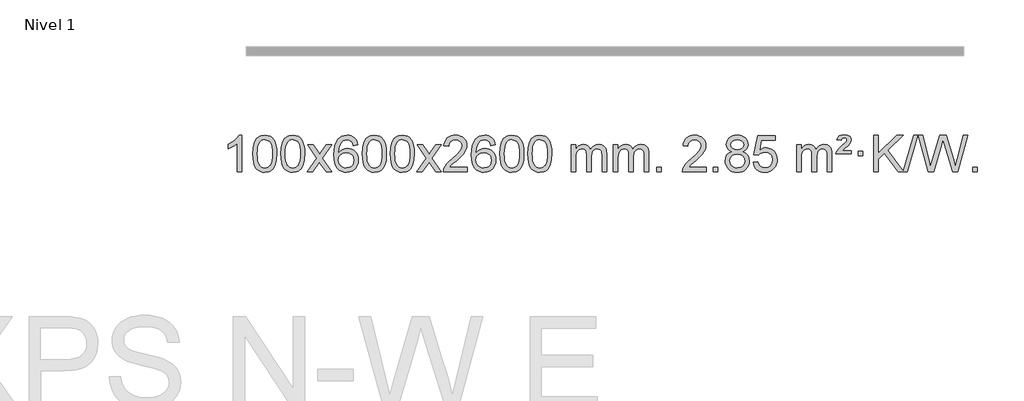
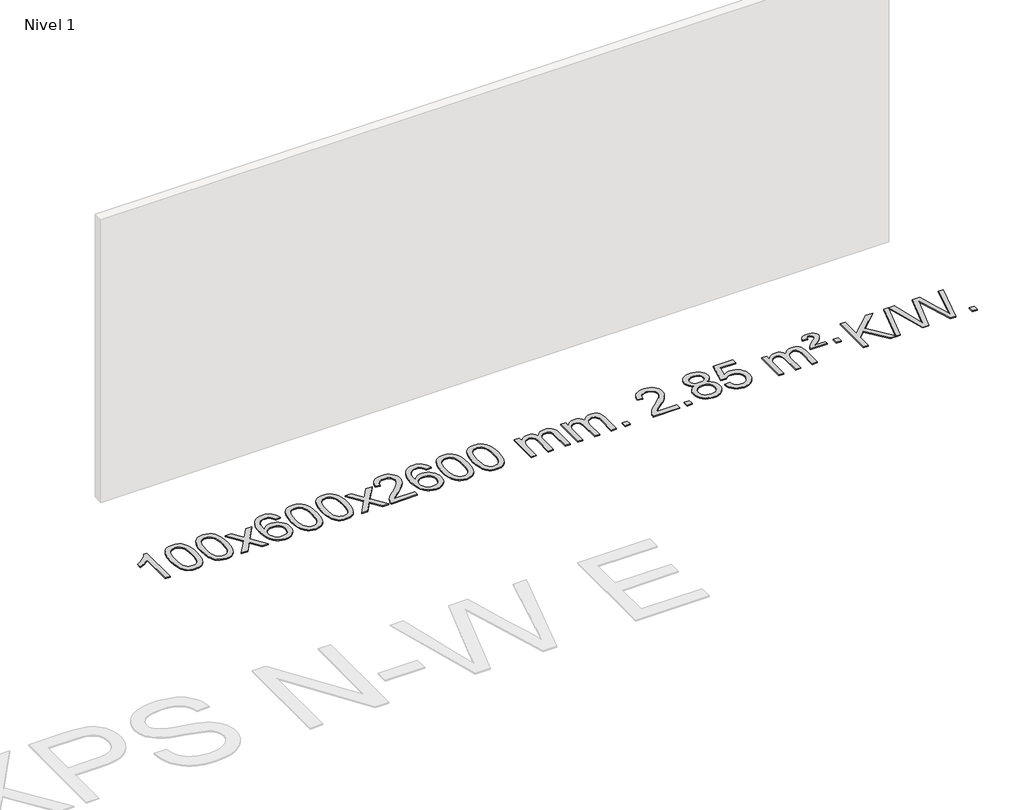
# One storey, part 4 of 9: 1 proxy.
"""IFC4 building model written with IfcOpenShell, lengths in millimetres."""

from ifc_helpers import new_model, si_unit, origin, origin_with_axes, place, context, project, spatial, polyline, outline, extrude, element, save

model = new_model("IFC4")

# Units and contexts
model_context = context("Model", 3, world=origin())
ifc_project = project(units=[si_unit("LENGTHUNIT", "METRE", prefix="MILLI")], contexts=[model_context])

# Site, building, storey
site = spatial("IfcSite", under=ifc_project)
building = spatial("IfcBuilding", under=site)
storey = spatial("IfcBuildingStorey", under=building, Name="Nivel 1", Elevation=0.0)

# Proxy
placement = place(None, origin())
element("IfcBuildingElementProxy", 1, Name="Texto de modelo 1", ObjectType="Texto de modelo 1", at=placement, inside=storey, context=model_context, shape_type="SweptSolid", body=[
    extrude(outline(polyline([(5124.5384212, -9389.579453), (5074.3102662, -9389.579453), (5074.3102662, -9076.4382987), (5053.3409924, -9093.3976587), (5026.7308615, -9110.3324932), (4973.853956, -9135.6918254), (4973.853956, -9088.2105225), (5013.3031686, -9066.7507395), (5047.479406, -9041.219729), (5074.4206308, -9014.0700378), (5092.1648057, -8987.7542124), (5124.5384212, -8987.7542124), (5124.5384212, -9389.579453)])), origin_with_axes(), (0.0, 0.0, 1.0), 10.0),
    extrude(outline(polyline([(5243.8302895, -9191.9041943), (5247.5213722, -9127.5861588), (5258.5946203, -9076.2911459), (5276.9396691, -9037.2343407), (5288.7977321, -9022.0009605), (5302.4461541, -9009.6309284), (5317.9309204, -9000.0598651), (5335.2980163, -8993.2233914), (5375.6791966, -8987.7542124), (5406.6303351, -8990.991574), (5434.3441121, -9000.7036586), (5457.5206778, -9016.5103217), (5474.8601825, -9038.0314184), (5487.9567815, -9065.0830078), (5498.4046302, -9097.4811488), (5505.2472353, -9138.6226186), (5507.5281037, -9191.9041943), (5503.8738092, -9255.8543477), (5492.9109257, -9307.0267333), (5474.6762415, -9346.1203266), (5462.8457697, -9361.3996922), (5449.2065447, -9373.8341036), (5433.7033843, -9383.4695462), (5416.2811061, -9390.3520052), (5375.6791966, -9395.8579724), (5348.0144706, -9393.4667394), (5323.4890042, -9386.2930405), (5302.1027976, -9374.3368757), (5283.8558506, -9357.5982449), (5266.3446676, -9327.3399508), (5253.8366798, -9289.6381776), (5246.3318871, -9244.4929255), (5243.8302895, -9191.9041943)]), holes=[polyline([(5294.0584446, -9191.8060924), (5295.5299726, -9235.4706195), (5299.9445565, -9270.8148822), (5307.3021964, -9297.8388804), (5317.6028923, -9316.5426142), (5330.0618292, -9329.2682656), (5343.8941922, -9338.3580165), (5359.0999814, -9343.8118671), (5375.6791966, -9345.6298173), (5392.2584119, -9343.8057357), (5407.464201, -9338.3334911), (5421.296564, -9329.2130833), (5433.7555009, -9316.4445124), (5444.0561968, -9297.7101217), (5451.4138367, -9270.6922549), (5455.8284206, -9235.3909118), (5457.2999486, -9191.8060924), (5455.8774716, -9149.2973278), (5451.6100404, -9114.5753989), (5444.4976552, -9087.6403055), (5434.5403158, -9068.4920476), (5422.2898454, -9055.1440625), (5408.2980668, -9045.6097875), (5392.5649802, -9039.8892225), (5375.0905854, -9037.9823675), (5358.5972093, -9039.6623619), (5343.6489376, -9044.7023452), (5330.2457702, -9053.1023175), (5318.3877072, -9064.8622786), (5307.7436548, -9085.708925), (5300.1407603, -9113.8151094), (5295.5790235, -9149.1808319), (5294.0584446, -9191.8060924)])]), origin_with_axes(), (0.0, 0.0, 1.0), 10.0),
    extrude(outline(polyline([(5551.4777394, -9191.9041943), (5555.1688221, -9127.5861588), (5566.2420701, -9076.2911459), (5584.5871189, -9037.2343407), (5596.4451819, -9022.0009605), (5610.0936039, -9009.6309284), (5625.5783702, -9000.0598651), (5642.9454661, -8993.2233914), (5683.3266464, -8987.7542124), (5714.277785, -8990.991574), (5741.9915619, -9000.7036586), (5765.1681276, -9016.5103217), (5782.5076323, -9038.0314184), (5795.6042314, -9065.0830078), (5806.05208, -9097.4811488), (5812.8946851, -9138.6226186), (5815.1755535, -9191.9041943), (5811.521259, -9255.8543477), (5800.5583756, -9307.0267333), (5782.3236913, -9346.1203266), (5770.4932195, -9361.3996922), (5756.8539945, -9373.8341036), (5741.3508341, -9383.4695462), (5723.928556, -9390.3520052), (5683.3266464, -9395.8579724), (5655.6619204, -9393.4667394), (5631.1364541, -9386.2930405), (5609.7502474, -9374.3368757), (5591.5033004, -9357.5982449), (5573.9921175, -9327.3399508), (5561.4841296, -9289.6381776), (5553.9793369, -9244.4929255), (5551.4777394, -9191.9041943)]), holes=[polyline([(5601.7058944, -9191.8060924), (5603.1774224, -9235.4706195), (5607.5920064, -9270.8148822), (5614.9496463, -9297.8388804), (5625.2503421, -9316.5426142), (5637.709279, -9329.2682656), (5651.5416421, -9338.3580165), (5666.7474312, -9343.8118671), (5683.3266464, -9345.6298173), (5699.9058617, -9343.8057357), (5715.1116508, -9338.3334911), (5728.9440138, -9329.2130833), (5741.4029507, -9316.4445124), (5751.7036466, -9297.7101217), (5759.0612865, -9270.6922549), (5763.4758705, -9235.3909118), (5764.9473984, -9191.8060924), (5763.5249214, -9149.2973278), (5759.2574902, -9114.5753989), (5752.145105, -9087.6403055), (5742.1877657, -9068.4920476), (5729.9372952, -9055.1440625), (5715.9455167, -9045.6097875), (5700.21243, -9039.8892225), (5682.7380352, -9037.9823675), (5666.2446591, -9039.6623619), (5651.2963874, -9044.7023452), (5637.89322, -9053.1023175), (5626.0351571, -9064.8622786), (5615.3911047, -9085.708925), (5607.7882101, -9113.8151094), (5603.2264734, -9149.1808319), (5601.7058944, -9191.8060924)])]), origin_with_axes(), (0.0, 0.0, 1.0), 10.0),
    extrude(outline(polyline([(5840.2896311, -9389.579453), (5947.6130718, -9241.2494325), (5846.5681504, -9094.4890419), (5906.9988995, -9094.4890419), (5955.7555266, -9165.122385), (5978.5151594, -9198.4770192), (5998.2336343, -9171.2047007), (6053.7592901, -9094.4890419), (6114.1900392, -9094.4890419), (6008.0438209, -9241.2494325), (6110.2659646, -9389.579453), (6049.8352155, -9389.579453), (5988.3253459, -9300.4048574), (5977.0436314, -9284.1199477), (5900.7203801, -9389.579453), (5840.2896311, -9389.579453)])), origin_with_axes(), (0.0, 0.0, 1.0), 10.0),
    extrude(outline(polyline([(6399.0778563, -9094.4890419), (6348.8497012, -9100.7675613), (6340.7562973, -9075.874213), (6329.8179393, -9058.8780648), (6307.0337811, -9043.2062918), (6279.4916824, -9037.9823675), (6256.1434384, -9041.0235253), (6234.1686206, -9050.1469988), (6215.2962742, -9069.3627017), (6199.8820186, -9095.8134171), (6189.4709581, -9133.227016), (6185.6081972, -9185.3313693), (6205.7558678, -9161.8237098), (6229.9011894, -9145.2567573), (6256.6952614, -9135.434308), (6284.7891831, -9132.1601582), (6308.922242, -9134.398107), (6331.1913654, -9141.1119534), (6351.5965534, -9152.3016975), (6370.137806, -9167.9673391), (6385.5459302, -9187.1769106), (6396.5517332, -9208.9984443), (6403.155215, -9233.4319401), (6405.3563756, -9260.4773982), (6401.2115718, -9296.4439945), (6388.7771604, -9329.786366), (6369.0832109, -9358.0642287), (6343.159793, -9378.8372987), (6312.184129, -9391.602804), (6277.3334413, -9395.8579724), (6247.3909126, -9393.0375437), (6220.3485203, -9384.5762579), (6196.2062643, -9370.4741147), (6174.9641448, -9350.7311143), (6157.6460999, -9324.5133908), (6145.2760678, -9290.9870783), (6137.8540485, -9250.1521768), (6135.3800421, -9202.0086864), (6138.1268943, -9148.0342663), (6146.367451, -9101.9693092), (6160.1017122, -9063.8138149), (6179.3296778, -9033.5677835), (6200.1701928, -9013.5243462), (6224.3339085, -8999.2076052), (6251.820825, -8990.6175606), (6282.6309421, -8987.7542124), (6305.7645882, -8989.5261773), (6326.7032051, -8994.8420722), (6345.4467927, -9003.7018969), (6361.9953511, -9016.1056515), (6375.9012906, -9031.6364031), (6386.7170212, -9049.8772186), (6394.4425431, -9070.8280983), (6399.0778563, -9094.4890419)]), holes=[polyline([(6185.6081972, -9259.6925832), (6188.514465, -9281.9494439), (6197.2332682, -9303.2007605), (6210.7713257, -9321.472233), (6228.1353558, -9334.7895612), (6249.0923668, -9342.9197533), (6273.4093667, -9345.6298173), (6306.5555345, -9340.0134855), (6320.4706709, -9332.9930708), (6332.6138425, -9323.1644901), (6342.4638829, -9310.9262824), (6349.499626, -9296.6769865), (6355.1282206, -9262.1451299), (6349.5732024, -9228.9989621), (6342.6294298, -9215.3781312), (6332.9081481, -9203.725469), (6320.7281883, -9194.3904634), (6306.4083817, -9187.7226022), (6271.3492275, -9182.3883133), (6238.2521107, -9187.7226022), (6210.5751219, -9203.725469), (6199.6520924, -9215.2248471), (6191.8499284, -9228.3858254), (6187.16863, -9243.2084042), (6185.6081972, -9259.6925832)])]), origin_with_axes(), (0.0, 0.0, 1.0), 10.0),
    extrude(outline(polyline([(6449.3060113, -9191.9041943), (6452.997094, -9127.5861588), (6464.0703421, -9076.2911459), (6482.4153909, -9037.2343407), (6494.2734539, -9022.0009605), (6507.9218759, -9009.6309284), (6523.4066422, -9000.0598651), (6540.7737381, -8993.2233914), (6581.1549184, -8987.7542124), (6612.1060569, -8990.991574), (6639.8198339, -9000.7036586), (6662.9963996, -9016.5103217), (6680.3359043, -9038.0314184), (6693.4325033, -9065.0830078), (6703.880352, -9097.4811488), (6710.7229571, -9138.6226186), (6713.0038255, -9191.9041943), (6709.349531, -9255.8543477), (6698.3866475, -9307.0267333), (6680.1519633, -9346.1203266), (6668.3214915, -9361.3996922), (6654.6822665, -9373.8341036), (6639.1791061, -9383.4695462), (6621.7568279, -9390.3520052), (6581.1549184, -9395.8579724), (6553.4901924, -9393.4667394), (6528.964726, -9386.2930405), (6507.5785194, -9374.3368757), (6489.3315724, -9357.5982449), (6471.8203894, -9327.3399508), (6459.3124016, -9289.6381776), (6451.8076089, -9244.4929255), (6449.3060113, -9191.9041943)]), holes=[polyline([(6499.5341664, -9191.8060924), (6501.0056944, -9235.4706195), (6505.4202783, -9270.8148822), (6512.7779182, -9297.8388804), (6523.0786141, -9316.5426142), (6535.537551, -9329.2682656), (6549.369914, -9338.3580165), (6564.5757032, -9343.8118671), (6581.1549184, -9345.6298173), (6597.7341337, -9343.8057357), (6612.9399228, -9338.3334911), (6626.7722858, -9329.2130833), (6639.2312227, -9316.4445124), (6649.5319186, -9297.7101217), (6656.8895585, -9270.6922549), (6661.3041424, -9235.3909118), (6662.7756704, -9191.8060924), (6661.3531934, -9149.2973278), (6657.0857622, -9114.5753989), (6649.973377, -9087.6403055), (6640.0160376, -9068.4920476), (6627.7655672, -9055.1440625), (6613.7737886, -9045.6097875), (6598.040702, -9039.8892225), (6580.5663072, -9037.9823675), (6564.0729311, -9039.6623619), (6549.1246594, -9044.7023452), (6535.721492, -9053.1023175), (6523.863429, -9064.8622786), (6513.2193766, -9085.708925), (6505.6164821, -9113.8151094), (6501.0547453, -9149.1808319), (6499.5341664, -9191.8060924)])]), origin_with_axes(), (0.0, 0.0, 1.0), 10.0),
    extrude(outline(polyline([(6756.9534612, -9191.9041943), (6760.6445439, -9127.5861588), (6771.7177919, -9076.2911459), (6790.0628407, -9037.2343407), (6801.9209037, -9022.0009605), (6815.5693257, -9009.6309284), (6831.054092, -9000.0598651), (6848.4211879, -8993.2233914), (6888.8023682, -8987.7542124), (6919.7535068, -8990.991574), (6947.4672837, -9000.7036586), (6970.6438494, -9016.5103217), (6987.9833541, -9038.0314184), (7001.0799532, -9065.0830078), (7011.5278018, -9097.4811488), (7018.3704069, -9138.6226186), (7020.6512753, -9191.9041943), (7016.9969808, -9255.8543477), (7006.0340974, -9307.0267333), (6987.7994131, -9346.1203266), (6975.9689413, -9361.3996922), (6962.3297163, -9373.8341036), (6946.8265559, -9383.4695462), (6929.4042778, -9390.3520052), (6888.8023682, -9395.8579724), (6861.1376422, -9393.4667394), (6836.6121759, -9386.2930405), (6815.2259692, -9374.3368757), (6796.9790222, -9357.5982449), (6779.4678393, -9327.3399508), (6766.9598514, -9289.6381776), (6759.4550587, -9244.4929255), (6756.9534612, -9191.9041943)]), holes=[polyline([(6807.1816162, -9191.8060924), (6808.6531442, -9235.4706195), (6813.0677282, -9270.8148822), (6820.4253681, -9297.8388804), (6830.7260639, -9316.5426142), (6843.1850008, -9329.2682656), (6857.0173639, -9338.3580165), (6872.223153, -9343.8118671), (6888.8023682, -9345.6298173), (6905.3815835, -9343.8057357), (6920.5873726, -9338.3334911), (6934.4197356, -9329.2130833), (6946.8786725, -9316.4445124), (6957.1793684, -9297.7101217), (6964.5370083, -9270.6922549), (6968.9515923, -9235.3909118), (6970.4231202, -9191.8060924), (6969.0006432, -9149.2973278), (6964.733212, -9114.5753989), (6957.6208268, -9087.6403055), (6947.6634875, -9068.4920476), (6935.413017, -9055.1440625), (6921.4212385, -9045.6097875), (6905.6881518, -9039.8892225), (6888.213757, -9037.9823675), (6871.7203809, -9039.6623619), (6856.7721092, -9044.7023452), (6843.3689418, -9053.1023175), (6831.5108789, -9064.8622786), (6820.8668265, -9085.708925), (6813.2639319, -9113.8151094), (6808.7021952, -9149.1808319), (6807.1816162, -9191.8060924)])]), origin_with_axes(), (0.0, 0.0, 1.0), 10.0),
    extrude(outline(polyline([(7045.7653528, -9389.579453), (7153.0887936, -9241.2494325), (7052.0438722, -9094.4890419), (7112.4746213, -9094.4890419), (7161.2312484, -9165.122385), (7183.9908812, -9198.4770192), (7203.7093561, -9171.2047007), (7259.2350119, -9094.4890419), (7319.665761, -9094.4890419), (7213.5195426, -9241.2494325), (7315.7416864, -9389.579453), (7255.3109373, -9389.579453), (7193.8010677, -9300.4048574), (7182.5193532, -9284.1199477), (7106.1961019, -9389.579453), (7045.7653528, -9389.579453)])), origin_with_axes(), (0.0, 0.0, 1.0), 10.0),
    extrude(outline(polyline([(7604.5535781, -9339.3512979), (7604.5535781, -9389.579453), (7340.8557639, -9389.579453), (7341.9594099, -9371.8965918), (7346.2513665, -9354.9494945), (7358.636727, -9327.8856424), (7376.7610466, -9301.6311307), (7402.9787702, -9274.1503456), (7439.6443423, -9243.4076736), (7493.845623, -9195.2641831), (7526.3663913, -9159.7267824), (7542.6267755, -9130.884834), (7548.0469036, -9102.8277005), (7542.9333439, -9077.6768347), (7527.5926647, -9056.7688747), (7504.0114288, -9042.6789943), (7474.176199, -9037.9823675), (7442.8449157, -9042.5686297), (7418.5033904, -9056.3274163), (7402.7948292, -9078.1796068), (7397.3624384, -9107.0460807), (7347.1342833, -9100.7675613), (7351.4538311, -9074.838012), (7359.3111773, -9052.1826125), (7370.7063221, -9032.8013627), (7385.6392655, -9016.6942627), (7403.7666508, -9004.0329907), (7424.7451215, -8994.989225), (7448.5746778, -8989.5629655), (7475.2553195, -8987.7542124), (7502.1750845, -8989.7653006), (7526.1333994, -8995.7985654), (7547.1302643, -9005.8540066), (7565.1656791, -9019.9316242), (7579.6510327, -9036.9890861), (7589.9977138, -9055.9840598), (7596.2057224, -9076.9165453), (7598.2750587, -9099.7865427), (7596.0432412, -9123.8092369), (7589.3477889, -9147.4149983), (7577.4652005, -9171.4254299), (7559.6719746, -9196.6621347), (7531.3082728, -9226.7916701), (7487.7142564, -9265.4805933), (7429.9322577, -9313.795762), (7407.2707268, -9339.3512979), (7604.5535781, -9339.3512979)])), origin_with_axes(), (0.0, 0.0, 1.0), 10.0),
    extrude(outline(polyline([(7912.2010279, -9094.4890419), (7861.9728728, -9100.7675613), (7853.8794689, -9075.874213), (7842.9411109, -9058.8780648), (7820.1569527, -9043.2062918), (7792.614854, -9037.9823675), (7769.26661, -9041.0235253), (7747.2917922, -9050.1469988), (7728.4194458, -9069.3627017), (7713.0051902, -9095.8134171), (7702.5941298, -9133.227016), (7698.7313688, -9185.3313693), (7718.8790394, -9161.8237098), (7743.024361, -9145.2567573), (7769.818433, -9135.434308), (7797.9123547, -9132.1601582), (7822.0454136, -9134.398107), (7844.314537, -9141.1119534), (7864.719725, -9152.3016975), (7883.2609776, -9167.9673391), (7898.6691018, -9187.1769106), (7909.6749049, -9208.9984443), (7916.2783867, -9233.4319401), (7918.4795473, -9260.4773982), (7914.3347435, -9296.4439945), (7901.900332, -9329.786366), (7882.2063825, -9358.0642287), (7856.2829646, -9378.8372987), (7825.3073006, -9391.602804), (7790.4566129, -9395.8579724), (7760.5140842, -9393.0375437), (7733.4716919, -9384.5762579), (7709.329436, -9370.4741147), (7688.0873164, -9350.7311143), (7670.7692715, -9324.5133908), (7658.3992394, -9290.9870783), (7650.9772202, -9250.1521768), (7648.5032137, -9202.0086864), (7651.250066, -9148.0342663), (7659.4906227, -9101.9693092), (7673.2248838, -9063.8138149), (7692.4528494, -9033.5677835), (7713.2933645, -9013.5243462), (7737.4570802, -8999.2076052), (7764.9439966, -8990.6175606), (7795.7541137, -8987.7542124), (7818.8877598, -8989.5261773), (7839.8263767, -8994.8420722), (7858.5699644, -9003.7018969), (7875.1185228, -9016.1056515), (7889.0244622, -9031.6364031), (7899.8401928, -9049.8772186), (7907.5657147, -9070.8280983), (7912.2010279, -9094.4890419)]), holes=[polyline([(7698.7313688, -9259.6925832), (7701.6376366, -9281.9494439), (7710.3564399, -9303.2007605), (7723.8944973, -9321.472233), (7741.2585275, -9334.7895612), (7762.2155385, -9342.9197533), (7786.5325383, -9345.6298173), (7819.6787061, -9340.0134855), (7833.5938426, -9332.9930708), (7845.7370141, -9323.1644901), (7855.5870545, -9310.9262824), (7862.6227977, -9296.6769865), (7868.2513922, -9262.1451299), (7862.6963741, -9228.9989621), (7855.7526014, -9215.3781312), (7846.0313197, -9203.725469), (7833.85136, -9194.3904634), (7819.5315533, -9187.7226022), (7784.4723992, -9182.3883133), (7751.3752823, -9187.7226022), (7723.6982936, -9203.725469), (7712.775264, -9215.2248471), (7704.9731, -9228.3858254), (7700.2918016, -9243.2084042), (7698.7313688, -9259.6925832)])]), origin_with_axes(), (0.0, 0.0, 1.0), 10.0),
    extrude(outline(polyline([(7962.429183, -9191.9041943), (7966.1202656, -9127.5861588), (7977.1935137, -9076.2911459), (7995.5385625, -9037.2343407), (8007.3966255, -9022.0009605), (8021.0450475, -9009.6309284), (8036.5298138, -9000.0598651), (8053.8969097, -8993.2233914), (8094.27809, -8987.7542124), (8125.2292286, -8990.991574), (8152.9430055, -9000.7036586), (8176.1195712, -9016.5103217), (8193.4590759, -9038.0314184), (8206.555675, -9065.0830078), (8217.0035236, -9097.4811488), (8223.8461287, -9138.6226186), (8226.1269971, -9191.9041943), (8222.4727026, -9255.8543477), (8211.5098192, -9307.0267333), (8193.2751349, -9346.1203266), (8181.4446631, -9361.3996922), (8167.8054381, -9373.8341036), (8152.3022777, -9383.4695462), (8134.8799996, -9390.3520052), (8094.27809, -9395.8579724), (8066.613364, -9393.4667394), (8042.0878976, -9386.2930405), (8020.701691, -9374.3368757), (8002.454744, -9357.5982449), (7984.9435611, -9327.3399508), (7972.4355732, -9289.6381776), (7964.9307805, -9244.4929255), (7962.429183, -9191.9041943)]), holes=[polyline([(8012.657338, -9191.8060924), (8014.128866, -9235.4706195), (8018.54345, -9270.8148822), (8025.9010899, -9297.8388804), (8036.2017857, -9316.5426142), (8048.6607226, -9329.2682656), (8062.4930856, -9338.3580165), (8077.6988748, -9343.8118671), (8094.27809, -9345.6298173), (8110.8573053, -9343.8057357), (8126.0630944, -9338.3334911), (8139.8954574, -9329.2130833), (8152.3543943, -9316.4445124), (8162.6550902, -9297.7101217), (8170.0127301, -9270.6922549), (8174.427314, -9235.3909118), (8175.898842, -9191.8060924), (8174.476365, -9149.2973278), (8170.2089338, -9114.5753989), (8163.0965486, -9087.6403055), (8153.1392093, -9068.4920476), (8140.8887388, -9055.1440625), (8126.8969603, -9045.6097875), (8111.1638736, -9039.8892225), (8093.6894788, -9037.9823675), (8077.1961027, -9039.6623619), (8062.247831, -9044.7023452), (8048.8446636, -9053.1023175), (8036.9866007, -9064.8622786), (8026.3425483, -9085.708925), (8018.7396537, -9113.8151094), (8014.1779169, -9149.1808319), (8012.657338, -9191.8060924)])]), origin_with_axes(), (0.0, 0.0, 1.0), 10.0),
    extrude(outline(polyline([(8270.0766328, -9191.9041943), (8273.7677155, -9127.5861588), (8284.8409635, -9076.2911459), (8303.1860124, -9037.2343407), (8315.0440753, -9022.0009605), (8328.6924974, -9009.6309284), (8344.1772637, -9000.0598651), (8361.5443595, -8993.2233914), (8401.9255399, -8987.7542124), (8432.8766784, -8990.991574), (8460.5904554, -9000.7036586), (8483.7670211, -9016.5103217), (8501.1065258, -9038.0314184), (8514.2031248, -9065.0830078), (8524.6509735, -9097.4811488), (8531.4935786, -9138.6226186), (8533.7744469, -9191.9041943), (8530.1201525, -9255.8543477), (8519.157269, -9307.0267333), (8500.9225848, -9346.1203266), (8489.0921129, -9361.3996922), (8475.452888, -9373.8341036), (8459.9497276, -9383.4695462), (8442.5274494, -9390.3520052), (8401.9255399, -9395.8579724), (8374.2608138, -9393.4667394), (8349.7353475, -9386.2930405), (8328.3491408, -9374.3368757), (8310.1021939, -9357.5982449), (8292.5910109, -9327.3399508), (8280.0830231, -9289.6381776), (8272.5782304, -9244.4929255), (8270.0766328, -9191.9041943)]), holes=[polyline([(8320.3047879, -9191.8060924), (8321.7763158, -9235.4706195), (8326.1908998, -9270.8148822), (8333.5485397, -9297.8388804), (8343.8492356, -9316.5426142), (8356.3081725, -9329.2682656), (8370.1405355, -9338.3580165), (8385.3463246, -9343.8118671), (8401.9255399, -9345.6298173), (8418.5047551, -9343.8057357), (8433.7105442, -9338.3334911), (8447.5429073, -9329.2130833), (8460.0018442, -9316.4445124), (8470.30254, -9297.7101217), (8477.6601799, -9270.6922549), (8482.0747639, -9235.3909118), (8483.5462919, -9191.8060924), (8482.1238148, -9149.2973278), (8477.8563837, -9114.5753989), (8470.7439984, -9087.6403055), (8460.7866591, -9068.4920476), (8448.5361887, -9055.1440625), (8434.5444101, -9045.6097875), (8418.8113234, -9039.8892225), (8401.3369287, -9037.9823675), (8384.8435526, -9039.6623619), (8369.8952808, -9044.7023452), (8356.4921135, -9053.1023175), (8344.6340505, -9064.8622786), (8333.9899981, -9085.708925), (8326.3871035, -9113.8151094), (8321.8253668, -9149.1808319), (8320.3047879, -9191.8060924)])]), origin_with_axes(), (0.0, 0.0, 1.0), 10.0),
    extrude(outline(polyline([(8747.244106, -9389.579453), (8747.244106, -9094.4890419), (8797.4722611, -9094.4890419), (8797.4722611, -9143.0494653), (8812.5799483, -9120.7435537), (8832.0041177, -9103.2691589), (8855.0825815, -9091.9751816), (8881.1531522, -9088.2105225), (8909.0876584, -9092.048758), (8931.4794092, -9103.5634645), (8948.2057772, -9121.9943524), (8959.1441352, -9146.5811324), (8977.4523959, -9121.0439906), (8998.3358304, -9102.803175), (9021.794439, -9091.8586857), (9047.8282215, -9088.2105225), (9067.9360383, -9089.7280358), (9085.585177, -9094.2805755), (9100.7756377, -9101.8681416), (9113.5074204, -9112.4907342), (9123.5720587, -9126.2709806), (9130.761086, -9143.3315082), (9135.0745024, -9163.6723168), (9136.5123078, -9187.2934066), (9136.5123078, -9389.579453), (9086.2841528, -9389.579453), (9086.2841528, -9208.875817), (9085.1191931, -9183.8230531), (9081.6243142, -9166.9372695), (9075.0760146, -9155.3735121), (9064.7507933, -9146.2868268), (9051.4702533, -9140.4007149), (9036.0559977, -9138.4386776), (9008.8449928, -9143.4663982), (8986.6617085, -9158.54956), (8978.0563355, -9170.1194488), (8971.9096405, -9184.7182326), (8966.9922845, -9223.0024856), (8966.9922845, -9389.579453), (8916.7641294, -9389.579453), (8916.7641294, -9203.2840106), (8913.8578616, -9174.8835206), (8905.1390583, -9154.6254854), (8889.7983791, -9142.4853796), (8867.0264836, -9138.4386776), (8847.6758907, -9141.1364789), (8829.8458767, -9149.2298828), (8815.1305968, -9162.5226856), (8805.1242066, -9180.8186835), (8799.3852475, -9206.2025411), (8797.4722611, -9240.7589232), (8797.4722611, -9389.579453), (8747.244106, -9389.579453)])), origin_with_axes(), (0.0, 0.0, 1.0), 10.0),
    extrude(outline(polyline([(9211.8545404, -9389.579453), (9211.8545404, -9094.4890419), (9262.0826955, -9094.4890419), (9262.0826955, -9143.0494653), (9277.1903828, -9120.7435537), (9296.6145521, -9103.2691589), (9319.693016, -9091.9751816), (9345.7635867, -9088.2105225), (9373.6980929, -9092.048758), (9396.0898436, -9103.5634645), (9412.8162117, -9121.9943524), (9423.7545697, -9146.5811324), (9442.0628303, -9121.0439906), (9462.9462649, -9102.803175), (9486.4048734, -9091.8586857), (9512.438656, -9088.2105225), (9532.5464727, -9089.7280358), (9550.1956114, -9094.2805755), (9565.3860721, -9101.8681416), (9578.1178548, -9112.4907342), (9588.1824931, -9126.2709806), (9595.3715204, -9143.3315082), (9599.6849368, -9163.6723168), (9601.1227423, -9187.2934066), (9601.1227423, -9389.579453), (9550.8945872, -9389.579453), (9550.8945872, -9208.875817), (9549.7296276, -9183.8230531), (9546.2347486, -9166.9372695), (9539.6864491, -9155.3735121), (9529.3612278, -9146.2868268), (9516.0806877, -9140.4007149), (9500.6664321, -9138.4386776), (9473.4554272, -9143.4663982), (9451.2721429, -9158.54956), (9442.6667699, -9170.1194488), (9436.5200749, -9184.7182326), (9431.6027189, -9223.0024856), (9431.6027189, -9389.579453), (9381.3745638, -9389.579453), (9381.3745638, -9203.2840106), (9378.4682961, -9174.8835206), (9369.7494928, -9154.6254854), (9354.4088136, -9142.4853796), (9331.6369181, -9138.4386776), (9312.2863251, -9141.1364789), (9294.4563111, -9149.2298828), (9279.7410313, -9162.5226856), (9269.734641, -9180.8186835), (9263.9956819, -9206.2025411), (9262.0826955, -9240.7589232), (9262.0826955, -9389.579453), (9211.8545404, -9389.579453)])), origin_with_axes(), (0.0, 0.0, 1.0), 10.0),
    extrude(outline(polyline([(9689.0220137, -9389.579453), (9689.0220137, -9339.3512979), (9739.2501687, -9339.3512979), (9739.2501687, -9389.579453), (9689.0220137, -9389.579453)])), origin_with_axes(), (0.0, 0.0, 1.0), 10.0),
    extrude(outline(polyline([(10235.2532001, -9339.3512979), (10235.2532001, -9389.579453), (9971.555386, -9389.579453), (9972.6590319, -9371.8965918), (9976.9509885, -9354.9494945), (9989.3363491, -9327.8856424), (10007.4606687, -9301.6311307), (10033.6783922, -9274.1503456), (10070.3439644, -9243.4076736), (10124.545245, -9195.2641831), (10157.0660134, -9159.7267824), (10173.3263976, -9130.884834), (10178.7465256, -9102.8277005), (10173.6329659, -9077.6768347), (10158.2922867, -9056.7688747), (10134.7110508, -9042.6789943), (10104.875821, -9037.9823675), (10073.5445377, -9042.5686297), (10049.2030124, -9056.3274163), (10033.4944512, -9078.1796068), (10028.0620604, -9107.0460807), (9977.8339053, -9100.7675613), (9982.1534531, -9074.838012), (9990.0107994, -9052.1826125), (10001.4059442, -9032.8013627), (10016.3388875, -9016.6942627), (10034.4662728, -9004.0329907), (10055.4447436, -8994.989225), (10079.2742998, -8989.5629655), (10105.9549415, -8987.7542124), (10132.8747065, -8989.7653006), (10156.8330215, -8995.7985654), (10177.8298863, -9005.8540066), (10195.8653011, -9019.9316242), (10210.3506547, -9036.9890861), (10220.6973358, -9055.9840598), (10226.9053445, -9076.9165453), (10228.9746807, -9099.7865427), (10226.7428633, -9123.8092369), (10220.047411, -9147.4149983), (10208.1648225, -9171.4254299), (10190.3715967, -9196.6621347), (10162.0078949, -9226.7916701), (10118.4138784, -9265.4805933), (10060.6318797, -9313.795762), (10037.9703488, -9339.3512979), (10235.2532001, -9339.3512979)])), origin_with_axes(), (0.0, 0.0, 1.0), 10.0),
    extrude(outline(polyline([(10310.5954327, -9389.579453), (10310.5954327, -9339.3512979), (10360.8235878, -9339.3512979), (10360.8235878, -9389.579453), (10310.5954327, -9389.579453)])), origin_with_axes(), (0.0, 0.0, 1.0), 10.0),
    extrude(outline(polyline([(10515.6283314, -9168.2616447), (10488.7361575, -9155.0178929), (10469.8638112, -9137.0652515), (10458.7169867, -9114.7716026), (10455.0013785, -9088.5048281), (10457.0247295, -9068.0199324), (10463.0947824, -9049.2395565), (10473.2115373, -9032.1637006), (10487.3749941, -9016.7923645), (10504.9045712, -9004.088173), (10525.1196868, -8995.0137504), (10548.020341, -8989.5690969), (10573.6065338, -8987.7542124), (10599.3153539, -8989.6120165), (10622.3876864, -8995.1854287), (10642.8235312, -9004.4744491), (10660.6228884, -9017.4790776), (10675.0438626, -9033.1508506), (10685.3445585, -9050.4413044), (10691.524976, -9069.3504389), (10693.5851152, -9089.8782543), (10689.9185579, -9115.2989001), (10678.9188863, -9137.2124043), (10660.4634729, -9155.0546811), (10634.4296903, -9168.2616447), (10665.3440407, -9184.1909351), (10687.846156, -9207.6495436), (10701.5681544, -9237.5092989), (10706.1421539, -9272.6420295), (10703.8735483, -9297.6947933), (10697.0677314, -9320.6628926), (10685.7247032, -9341.5463272), (10669.8444637, -9360.3450971), (10650.2608789, -9375.88198), (10627.8078144, -9386.9797536), (10602.4852704, -9393.6384177), (10574.2932469, -9395.8579724), (10546.1012233, -9393.6292206), (10520.7786793, -9386.9429654), (10498.3256148, -9375.7992066), (10478.74203, -9360.1979443), (10462.8617905, -9341.26735), (10451.5187623, -9320.135595), (10444.7129454, -9296.8026795), (10442.4443398, -9271.2686033), (10447.2022803, -9234.7747094), (10461.4761017, -9204.7555386), (10484.53004, -9182.2411605), (10515.6283314, -9168.2616447)]), holes=[polyline([(10505.2295336, -9089.9763561), (10509.6809058, -9111.902123), (10523.0350222, -9129.413306), (10544.8994754, -9140.8912243), (10574.881858, -9144.717197), (10604.1652649, -9140.9157497), (10625.6986243, -9129.5114079), (10638.9423761, -9112.5888361), (10643.3569601, -9092.232699), (10638.7952233, -9071.1040098), (10625.1100131, -9053.629615), (10603.2823481, -9041.8941794), (10574.2932469, -9037.9823675), (10545.1202046, -9041.8083402), (10523.3293278, -9053.2862585), (10509.7544822, -9070.1107284), (10505.2295336, -9089.9763561)]), polyline([(10492.6724949, -9269.5027698), (10494.7694222, -9288.7184726), (10501.0602043, -9307.3210389), (10512.6730127, -9323.5446349), (10530.7360186, -9335.623427), (10552.3674799, -9343.1282197), (10574.6856543, -9345.6298173), (10608.8741544, -9340.3691048), (10622.7678311, -9333.7932141), (10634.5277922, -9324.5869672), (10650.5674472, -9300.6869002), (10655.9139988, -9271.0723996), (10650.3957689, -9240.9551269), (10633.8410791, -9216.5277625), (10621.762287, -9207.0854579), (10607.5988301, -9200.3409547), (10573.0179226, -9194.9453521), (10539.3076691, -9200.2673783), (10525.5703423, -9206.919911), (10513.9115487, -9216.2334569), (10497.9822583, -9240.1948375), (10492.6724949, -9269.5027698)])]), origin_with_axes(), (0.0, 0.0, 1.0), 10.0),
    extrude(outline(polyline([(10750.0917896, -9282.8446235), (10800.3199447, -9276.5661041), (10809.54152, -9306.7201649), (10825.630226, -9328.3148381), (10848.5124861, -9341.3010725), (10878.1147239, -9345.6298173), (10897.2445877, -9344.1245668), (10914.1181085, -9339.6088153), (10928.7352865, -9332.0825628), (10941.0961215, -9321.5458094), (10950.9247021, -9308.519721), (10957.9451169, -9293.5254641), (10963.5614487, -9257.6324441), (10958.3007361, -9223.8363514), (10951.7248455, -9209.9181493), (10942.5185986, -9197.9865099), (10930.6513385, -9188.4154467), (10916.0924086, -9181.5789729), (10878.8995389, -9176.1097939), (10854.533488, -9178.2925604), (10834.8027504, -9184.8408599), (10819.0451382, -9194.8717757), (10806.5984641, -9207.5023908), (10756.370309, -9201.2238715), (10800.3199447, -8994.0327318), (10994.9540456, -8994.0327318), (10994.9540456, -9044.2608869), (10840.934117, -9044.2608869), (10819.4498084, -9154.919791), (10837.1755892, -9142.2155994), (10855.3305657, -9133.1411769), (10873.9147378, -9127.6965234), (10892.9281056, -9125.8816388), (10917.3891926, -9128.1318504), (10939.8575855, -9134.882485), (10960.3332842, -9146.1335427), (10978.8162887, -9161.8850234), (10994.1171141, -9181.1743027), (11005.046275, -9203.038756), (11011.6037716, -9227.4783832), (11013.7896038, -9254.4931844), (11011.8214351, -9280.5147042), (11005.9169291, -9304.7213394), (10996.0760857, -9327.1130902), (10982.298905, -9347.6899565), (10961.4277331, -9368.7634634), (10937.073945, -9383.8159684), (10909.2375407, -9392.8474714), (10877.9185202, -9395.8579724), (10851.998168, -9393.9235262), (10828.5855447, -9388.1201877), (10807.6806503, -9378.447957), (10789.2834848, -9364.9068338), (10773.9765281, -9348.1712688), (10762.3422601, -9328.915712), (10754.3806805, -9307.1401636), (10750.0917896, -9282.8446235)])), origin_with_axes(), (0.0, 0.0, 1.0), 10.0),
    extrude(outline(polyline([(11227.2592628, -9389.579453), (11227.2592628, -9094.4890419), (11277.4874179, -9094.4890419), (11277.4874179, -9143.0494653), (11292.5951052, -9120.7435537), (11312.0192745, -9103.2691589), (11335.0977383, -9091.9751816), (11361.1683091, -9088.2105225), (11389.1028152, -9092.048758), (11411.494566, -9103.5634645), (11428.2209341, -9121.9943524), (11439.159292, -9146.5811324), (11457.4675527, -9121.0439906), (11478.3509873, -9102.803175), (11501.8095958, -9091.8586857), (11527.8433783, -9088.2105225), (11547.9511951, -9089.7280358), (11565.6003338, -9094.2805755), (11580.7907945, -9101.8681416), (11593.5225772, -9112.4907342), (11603.5872155, -9126.2709806), (11610.7762428, -9143.3315082), (11615.0896592, -9163.6723168), (11616.5274647, -9187.2934066), (11616.5274647, -9389.579453), (11566.2993096, -9389.579453), (11566.2993096, -9208.875817), (11565.1343499, -9183.8230531), (11561.639471, -9166.9372695), (11555.0911715, -9155.3735121), (11544.7659501, -9146.2868268), (11531.4854101, -9140.4007149), (11516.0711545, -9138.4386776), (11488.8601496, -9143.4663982), (11466.6768653, -9158.54956), (11458.0714923, -9170.1194488), (11451.9247973, -9184.7182326), (11447.0074413, -9223.0024856), (11447.0074413, -9389.579453), (11396.7792862, -9389.579453), (11396.7792862, -9203.2840106), (11393.8730184, -9174.8835206), (11385.1542152, -9154.6254854), (11369.813536, -9142.4853796), (11347.0416405, -9138.4386776), (11327.6910475, -9141.1364789), (11309.8610335, -9149.2298828), (11295.1457537, -9162.5226856), (11285.1393634, -9180.8186835), (11279.4004043, -9206.2025411), (11277.4874179, -9240.7589232), (11277.4874179, -9389.579453), (11227.2592628, -9389.579453)])), origin_with_axes(), (0.0, 0.0, 1.0), 10.0),
    extrude(outline(polyline([(11660.4771003, -9188.6668327), (11664.3030731, -9172.8479069), (11672.6417317, -9156.9799302), (11694.1505656, -9131.8413272), (11726.1072483, -9104.1030247), (11770.2530877, -9066.726214), (11777.3899984, -9055.1992448), (11779.7689686, -9043.3779701), (11777.8805077, -9031.2869152), (11772.215125, -9021.5012541), (11762.8463969, -9015.026531), (11749.8478997, -9012.8682899), (11737.4134883, -9014.4869707), (11728.5597949, -9019.343013), (11722.1341227, -9028.8098431), (11716.9837748, -9044.2608869), (11666.7556197, -9037.9823675), (11677.5958759, -9012.7701881), (11694.224142, -8995.2099542), (11717.9893189, -8984.9092583), (11750.2403072, -8981.475693), (11786.0229626, -8985.6082341), (11810.7691581, -8998.0058573), (11825.1901323, -9016.3386434), (11829.9971237, -9038.2766731), (11825.9013708, -9061.1834586), (11813.6141122, -9082.8149199), (11793.0862969, -9102.6314968), (11756.6169284, -9130.6886303), (11731.0123416, -9157.2742358), (11829.9971237, -9157.2742358), (11829.9971237, -9188.6668327), (11660.4771003, -9188.6668327)])), origin_with_axes(), (0.0, 0.0, 1.0), 10.0),
    extrude(outline(polyline([(11905.3393563, -9213.7809102), (11905.3393563, -9163.5527552), (11955.5675114, -9163.5527552), (11955.5675114, -9213.7809102), (11905.3393563, -9213.7809102)])), origin_with_axes(), (0.0, 0.0, 1.0), 10.0),
    extrude(outline(polyline([(12346.2091394, -9389.579453), (12192.7778219, -9186.9009991), (12125.0875348, -9251.4520265), (12125.0875348, -9389.579453), (12074.8593797, -9389.579453), (12074.8593797, -8987.7542124), (12125.0875348, -8987.7542124), (12125.0875348, -9184.4484525), (12331.1014521, -8987.7542124), (12401.3423877, -8987.7542124), (12228.388799, -9152.9577537), (12403.0424089, -9383.5349332), (12514.3557366, -8987.7542124), (12559.6787984, -8987.7542124), (12446.6654495, -9389.579453), (12407.6209071, -9389.579453), (12401.3423877, -9389.579453), (12346.2091394, -9389.579453)])), origin_with_axes(), (0.0, 0.0, 1.0), 10.0),
    extrude(outline(polyline([(12674.1636753, -9389.579453), (12564.5838917, -8987.7542124), (12616.3816766, -8987.7542124), (12679.9516854, -9251.844434), (12699.5720585, -9333.3670841), (12720.5658576, -9261.2622131), (12800.2245723, -8987.7542124), (12874.8800919, -8987.7542124), (12932.7601925, -9186.0180823), (12957.5554389, -9259.5944814), (12975.8269114, -9333.3670841), (12994.8586732, -9254.1988788), (13059.0172932, -8987.7542124), (13110.8150781, -8987.7542124), (13001.1371926, -9389.579453), (12947.4754723, -9389.579453), (12851.1394405, -9079.5775584), (12837.6994849, -9036.3146358), (12822.5917976, -9088.4067263), (12734.7906281, -9389.579453), (12674.1636753, -9389.579453)])), origin_with_axes(), (0.0, 0.0, 1.0), 10.0),
    extrude(outline(polyline([(13167.3217526, -9389.579453), (13167.3217526, -9339.3512979), (13217.5499077, -9339.3512979), (13217.5499077, -9389.579453), (13167.3217526, -9389.579453)])), origin_with_axes(), (0.0, 0.0, 1.0), 10.0),
])

save(model, "model.ifc")
